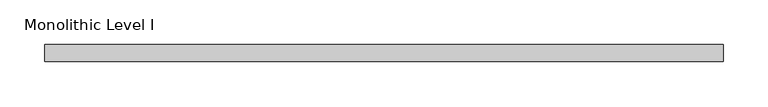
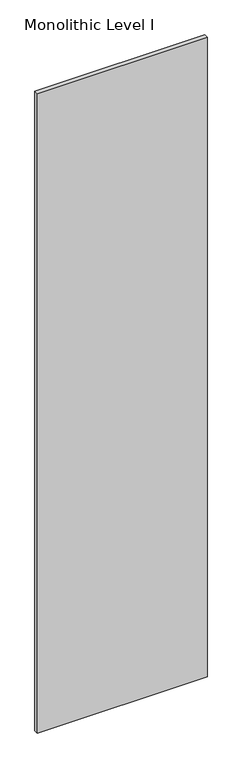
"""IFC4 building model written with IfcOpenShell, lengths in millimetres: proxy geometry, Panel-Fascia-Teknion-Altos-Standard : Monolithic Level I."""

from ifc_helpers import new_model, si_unit, frame, origin, place, context, project, spatial, polyline, outline, extrude, source, transform, mapped, element, save


def monolithic_level_i_6c7e6ec5(model_context):
    return source(origin(), model_context, "Body", "SweptSolid", [
        extrude(outline(polyline([(378.4203125, 9.525), (378.4203125, -9.525), (-378.4203125, -9.525), (-378.4203125, 9.525), (378.4203125, 9.525)])), frame((0.0, 0.0, 3.175), z_axis=(0.0, 0.0, 1.0), x_axis=(1.0, 0.0, 0.0)), (0.0, 0.0, 1.0), 3016.25),
    ])


if __name__ == "__main__":
    model = new_model("IFC4")
    model_context = context("Model", 3, world=origin())
    ifc_project = project(units=[si_unit("LENGTHUNIT", "METRE", prefix="MILLI")], contexts=[model_context])
    site = spatial("IfcSite", under=ifc_project)
    building = spatial("IfcBuilding", under=site)
    placement = place(None, origin())
    monolithic_level_i_shape = monolithic_level_i_6c7e6ec5(model_context)
    element("IfcBuildingElementProxy", 1, Name="Panel-Fascia-Teknion-Altos-Standard : Monolithic Level I", ObjectType="Panel-Fascia-Teknion-Altos-Standard : Monolithic Level I", at=placement, inside=building, context=model_context, shape_type="MappedRepresentation", body=[
        mapped(monolithic_level_i_shape, transform((0.0, 0.0, 0.0), x_axis=(1.0, 0.0, 0.0), y_axis=(0.0, 1.0, 0.0), z_axis=(0.0, 0.0, 1.0))),
    ])
    save(model, "model.ifc")
